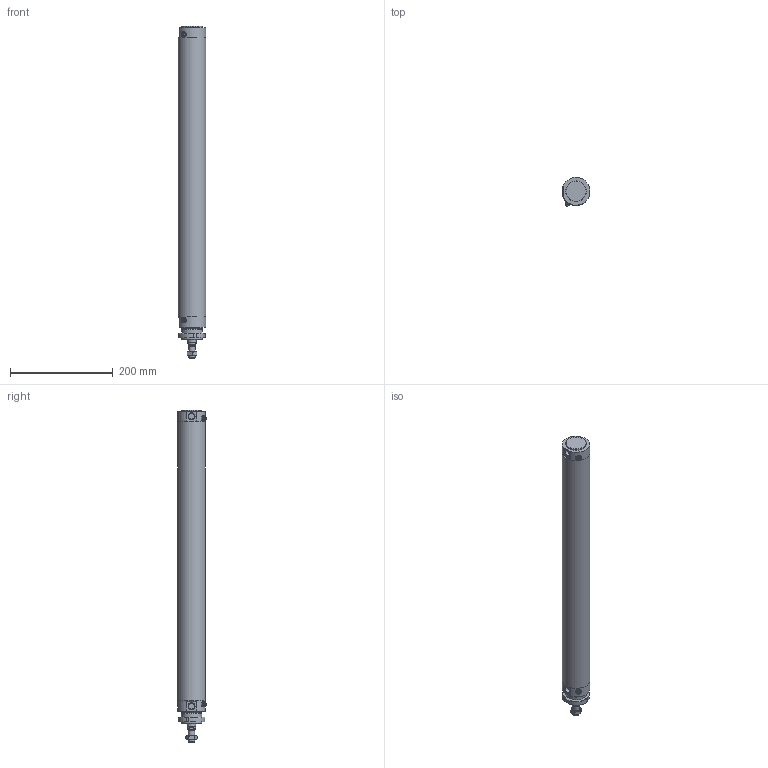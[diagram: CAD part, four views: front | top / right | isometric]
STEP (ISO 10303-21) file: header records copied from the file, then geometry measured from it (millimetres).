
FILE_DESCRIPTION(/* description */ (''),/* implementation_level */ '2;1');
FILE_NAME(/* name */ 'I:\Area Tecnica\Documenti\A-Manieri\_Inventor\12X\12X#D_###_####_#_#\12XBD_050_0500_#_#.stp',/* time_stamp */ '2015-05-04T15:13:20+02:00',/* author */ ('maniean1'),/* organization */ ('Pneumax S.p.A.'),/* preprocessor_version */ 'ST-DEVELOPER v15.2',/* originating_system */ 'Autodesk Inventor 2014',/* authorisation */ '');
FILE_SCHEMA (('AUTOMOTIVE_DESIGN { 1 0 10303 214 3 1 1 }'));
Length unit declared in the file: millimetre
Products named in the file (7): C1250_619-0500; 12X50_606; S12X50_0500; 12X_50_11; 12X50_612; G12X_050_05; 12XBD_050_0500_#_#
Bounding box: 54 x 55.88 x 645 mm (x, y, z)
Volume: 500074 mm3; surface area: 244344.2 mm2
Topology: 6 solids, 6 shells, 99 faces, 217 edges, 140 vertices
Faces by surface type: plane 53, cylinder 25, cone 19, torus 2
Full cylindrical faces by diameter (mm): 5 x2, 10.2 x1, 11 x2, 11.4 x2, 12 x2, 14 x1, 15.6 x1, 16 x1, 38.2 x1, 40 x4, 50 x2, 54 x3
Entity records: 2667 total; most frequent: CARTESIAN_POINT 540, DIRECTION 444, ORIENTED_EDGE 348, AXIS2_PLACEMENT_3D 188, EDGE_CURVE 174, EDGE_LOOP 152, VERTEX_POINT 132, ADVANCED_FACE 99
